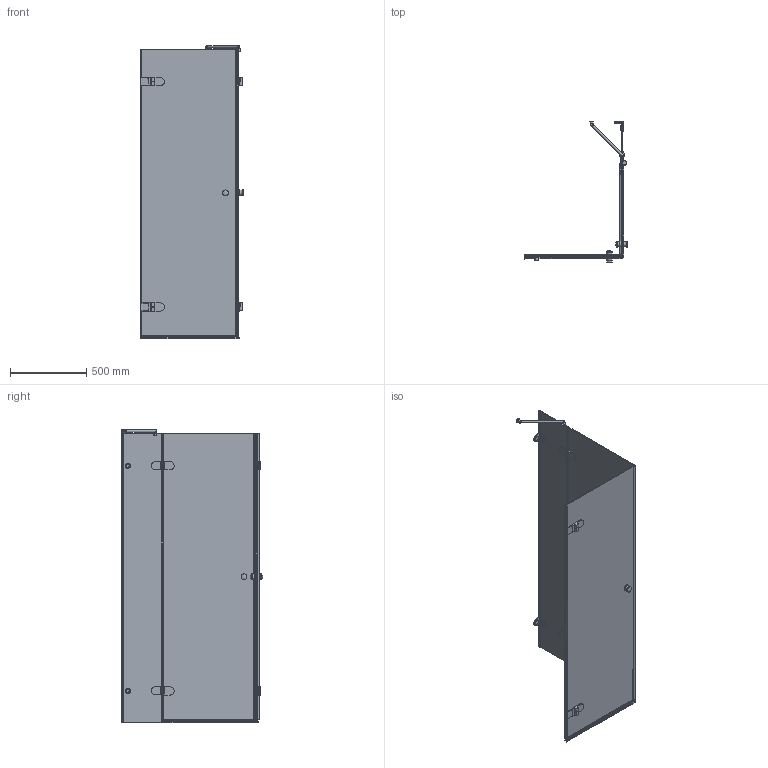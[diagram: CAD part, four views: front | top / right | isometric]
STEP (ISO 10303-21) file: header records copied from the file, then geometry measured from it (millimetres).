
FILE_DESCRIPTION(/* description */ (''),/* implementation_level */ '2;1');
FILE_NAME(/* name */ 'E:\Работа\Сергей\Душевые кабинки\! Работа\!\LUX SQUARE GK-003GC-2511\LUX SQUARE GK-003GC-2511 правая модель\LUX SQUARE GK-003GC-2511 ПРАВАЯ-3D.stp',/* time_stamp */ '2017-10-03T18:04:20+03:00',/* author */ ('PC'),/* organization */ (''),/* preprocessor_version */ 'ST-DEVELOPER v15.2',/* originating_system */ 'Autodesk Inventor 2014',/* authorisation */ '');
FILE_SCHEMA (('AUTOMOTIVE_DESIGN { 1 0 10303 214 3 1 1 }'));
Length unit declared in the file: millimetre
Products named in the file (1): LUX SQUARE GK-003GC-2511 ПРАВАЯ-
3D
Bounding box: 683.5 x 928 x 1931.49 mm (x, y, z)
Volume: 18400615.3 mm3; surface area: 6416468.2 mm2
Topology: 6 solids, 10 shells, 995 faces, 2405 edges, 1462 vertices
Faces by surface type: plane 736, cylinder 213, torus 28, sphere 9, bspline 7, cone 2
Full cylindrical faces by diameter (mm): 12 x1, 15 x1, 20 x2, 26 x1, 30 x2, 35 x2, 38 x8, 40 x2
Entity records: 29712 total; most frequent: CARTESIAN_POINT 5560, DIRECTION 4762, ORIENTED_EDGE 4720, EDGE_CURVE 2360, LINE 1816, VECTOR 1816, AXIS2_PLACEMENT_3D 1473, VERTEX_POINT 1450
